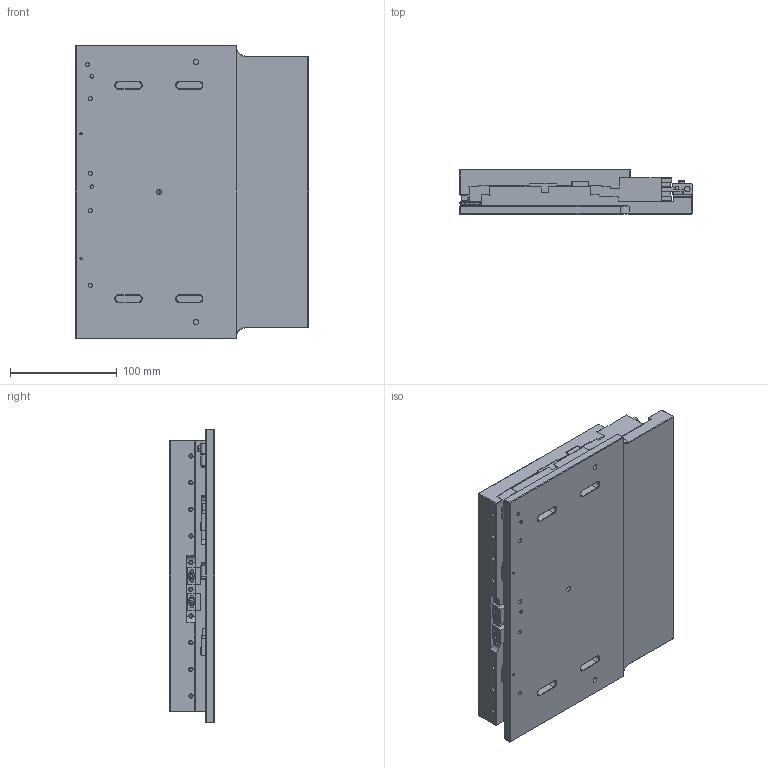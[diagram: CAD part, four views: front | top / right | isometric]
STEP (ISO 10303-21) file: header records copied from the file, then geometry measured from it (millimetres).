
FILE_DESCRIPTION((''),'2;1');
FILE_NAME('786011_009_26_KOMPRES_SW0001','2026-02-18T10:26:19',('Henkel'),(''),'CREO PARAMETRIC BY PTC INC, 2025123','CREO PARAMETRIC BY PTC INC, 2025123','');
FILE_SCHEMA(('AP242_MANAGED_MODEL_BASED_3D_ENGINEERING_MIM_LF { 1 0 10303 442 1 1 4 }'));
Length unit declared in the file: millimetre
Products named in the file (2): 786011_009_26_KOMPRES_SW0001; AL_ALUMINIUM
Bounding box: 218 x 42 x 275 mm (x, y, z)
Volume: 2124187.4 mm3; surface area: 194921.6 mm2
Topology: 1 solids, 1 shells, 900 faces, 2272 edges, 1457 vertices
Faces by surface type: plane 562, cylinder 267, cone 63, bspline 8
Entity records: 39908 total; most frequent: CARTESIAN_POINT 5063, DIRECTION 4657, ORIENTED_EDGE 4528, PRESENTATION_STYLE_ASSIGNMENT 2970, STYLED_ITEM 2269, CURVE_STYLE 2268, EDGE_CURVE 2264, VECTOR 1635
